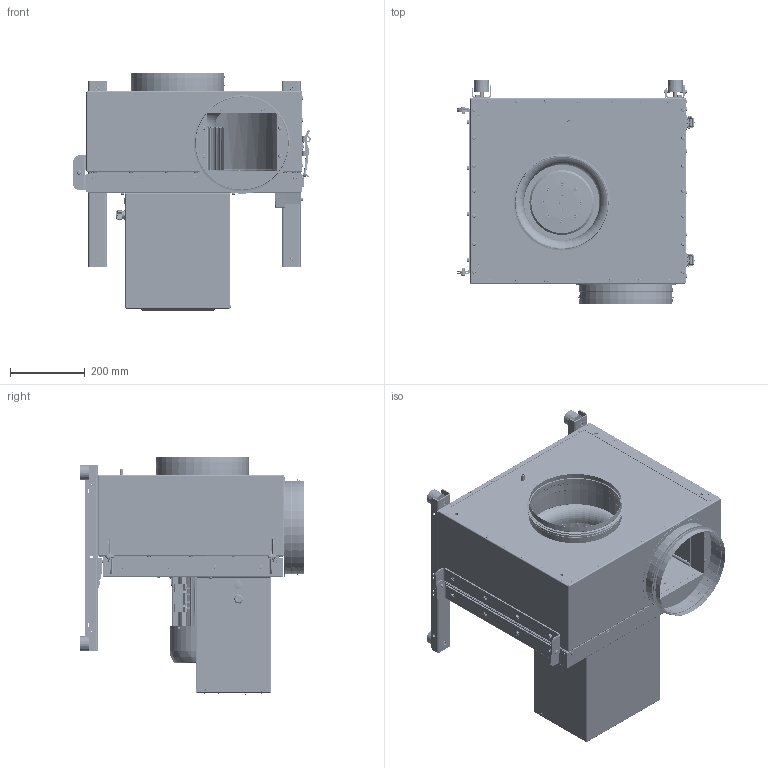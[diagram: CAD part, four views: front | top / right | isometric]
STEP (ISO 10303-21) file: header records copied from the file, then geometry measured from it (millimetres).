
FILE_DESCRIPTION(/* description */ ('KEF/4-250/114-XXX new concept'),/* implementation_level */ '2;1');
FILE_NAME(/* name */ 'C:\Users\lukaszn\Desktop\Bartosz\2 868 122 520 1.stp',/* time_stamp */ '2019-06-19T11:06:54+02:00',/* author */ ('lukaszN'),/* organization */ (''),/* preprocessor_version */ 'ST-DEVELOPER v16.13',/* originating_system */ 'Autodesk Inventor 2018',/* authorisation */ '');
FILE_SCHEMA (('AUTOMOTIVE_DESIGN { 1 0 10303 214 3 1 1 }'));
Products named in the file (124): 2 868 122 520 1; 2 868 900 000; 2 868 900 001; 2 868 900 002 1; 2 868 900 004; 2 868 902 000; 2 868 902 001; -; Stub %%c250; Gasket %%c250; 2 868 900 003; 2 868 900 005; 2 868 901 000; 2 868 901 001; 2 841 901 003 1; DIN 7337 - A4,8 x 8,5 x 2 BRALO; 2 868 904 000; 2 868 904 001; 2 868 904 002; KVT Polska; 2 868 903 000; 2 868 903 003; 2 868 903 001; FILKO M6-30; 2 841 906 002; 2 868 903 002; DIN 7337 - A4,8 x 9,5 BRALO; KVT Polska M5-30; KVT Polska M4-20 TSN R; 2 868 903 004; 220-240V 50Hz; NONE; NONEA; NONEB; NONEC; NONED; NONEE; NONEF; NONEG; NONEH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
Assembly tree (342 placements, depth 5):
  2 868 122 520 1
    2 868 900 000
      2 868 900 001
      2 868 900 002 1
      -
        Stub %%c250
        Gasket %%c250
      2 868 900 004
      2 868 902 000
        2 868 902 001
        -
          Stub %%c250
          Gasket %%c250
      2 868 900 003
      2 868 900 005
      2 868 901 000
        2 868 901 001
        2 841 901 003 1
        DIN 7337 - A4,8 x 8,5 x 2 BRALO  x8
      DIN 7337 - A4,8 x 8,5 x2,5 BRALO  x64
      DIN 7337 - A4,8 x 9,5 BRALO  x10
      FILKO M6-30  x4
      2 868 904 000
        2 868 904 001
        2 868 904 002
      KVT Polska M5-30  x6
      KVT Polska  x8
    2 868 903 000
      2 868 903 003
      2 868 903 001
      FILKO M6-30  x4
      2 841 906 002  x2
      DIN 7337 - A4,8 x 8,5 x2,5 BRALO  x37
      2 868 903 002
      DIN 7337 - A4,8 x 9,5 BRALO  x4
      KVT Polska M5-30  x2
      KVT Polska M4-20 TSN R  x2
      2 868 903 004
    220-240V 50Hz
      NONE
      NONEA
      NONEB
      NONEC
      NONED
      NONEE
      NONEF
      NONEG
      NONEH
      NONEI
      NONEJ
      NONEK
      NONEL
      NONEM
      NONEN
      NONEO
      NONEP
      NONEQ
      NONER
      NONES
      NONET
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Bounding box: 637 x 602.2 x 640.76 mm (x, y, z)
Volume: 6259152 mm3; surface area: 7510190.3 mm2
Topology: 335 solids, 337 shells, 12446 faces, 30939 edges, 19708 vertices
Faces by surface type: plane 5792, cylinder 3704, bspline 1447, cone 808, torus 612, sphere 83
Full cylindrical faces by diameter (mm): 2 x2, 2.5 x2, 3 x30, 3.25 x4, 3.621 x2, 4 x9, 4.2 x5, 4.3 x6, 4.567 x6, 4.6 x2, 4.667 x1, 4.8 x127, 4.917 x14, 5 x250, 5.1 x2, 5.2 x4, 5.3 x10, 5.459 x8, 5.5 x58, 5.6 x12, 5.9 x2, 6 x54, 6.1 x2, 6.4 x16, 6.6 x8, 6.7 x5, 6.8 x1, 6.9 x12, 7 x11, 7.1 x24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
Entity records: 736378 total; most frequent: CARTESIAN_POINT 505665, DIRECTION 46386, ORIENTED_EDGE 46316, EDGE_CURVE 23158, AXIS2_PLACEMENT_3D 17599, VERTEX_POINT 15216, EDGE_LOOP 11952, LINE 11188
